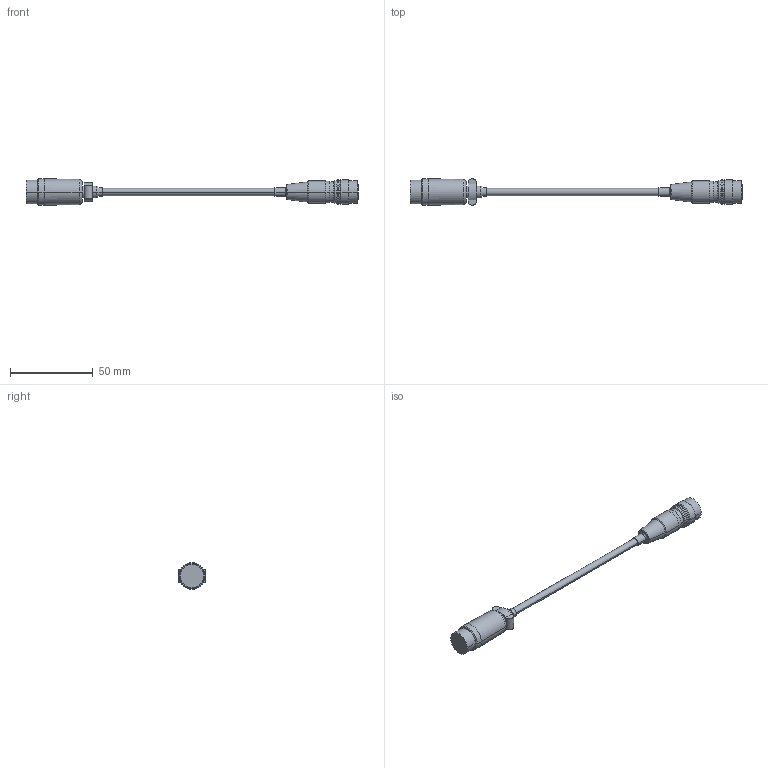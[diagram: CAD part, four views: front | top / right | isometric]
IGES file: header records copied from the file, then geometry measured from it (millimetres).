
Start section: Elysium IGES Interface
Global section: file name: 75HU:\cad_data\30_3D_CAD\LG\オプション\追加モデル\21HZA193_変換ケーブル(P).igs; native system: Creo Elements/Direct Modeling 18.1I  13-Aug-2016; preprocessor: Creo Element/Direct IGES_3D V2.2; author: Unknown; organization: Unknown; date: 20210615.111848; units: millimetre
Bounding box: 200 x 16 x 16 mm (x, y, z)
Volume: 14318.3 mm3; surface area: 5991.4 mm2
Topology: 1 solids, 1 shells, 84 faces, 172 edges, 102 vertices
Faces by surface type: bspline 84
